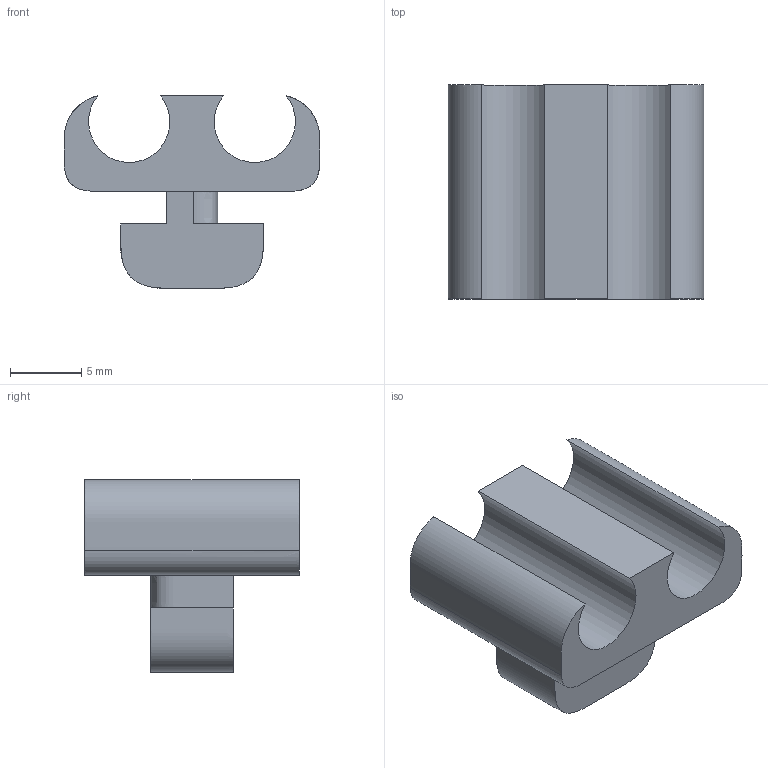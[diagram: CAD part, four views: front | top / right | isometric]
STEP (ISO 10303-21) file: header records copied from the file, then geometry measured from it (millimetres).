
FILE_DESCRIPTION(('Open CASCADE Model'),'2;1');
FILE_NAME('Open CASCADE Shape Model','2026-10-28T15:35:49',('Author'),( 'Open CASCADE'),'Open CASCADE STEP processor 7.9','Open CASCADE 7.9' ,'Unknown');
FILE_SCHEMA(('AUTOMOTIVE_DESIGN { 1 0 10303 214 1 1 1 1 }'));
Length unit declared in the file: millimetre
Products named in the file (1): Open CASCADE STEP translator 7.9 2
Bounding box: 17.91 x 15 x 13.48 mm (x, y, z)
Volume: 1340.1 mm3; surface area: 1314.2 mm2
Topology: 1 solids, 1 shells, 20 faces, 49 edges, 32 vertices
Faces by surface type: plane 10, extrusion 8, cylinder 2
Entity records: 7853 total; most frequent: CARTESIAN_POINT 6989, DIRECTION 104, ORIENTED_EDGE 98, PCURVE 98, DEFINITIONAL_REPRESENTATION 98, B_SPLINE_CURVE_WITH_KNOTS 87, VECTOR 68, LINE 60
